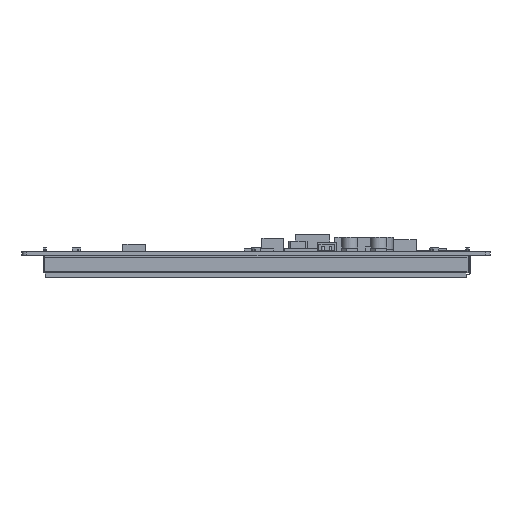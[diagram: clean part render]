
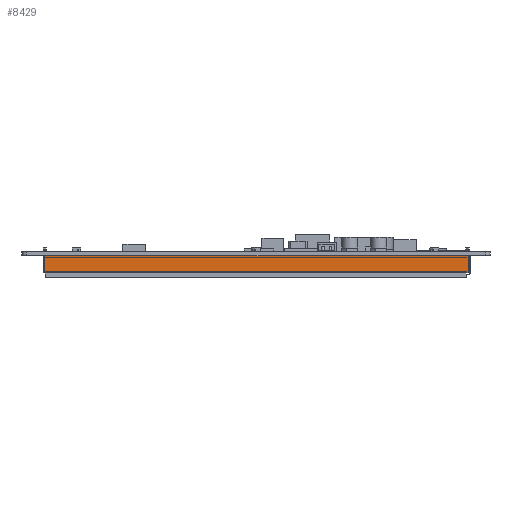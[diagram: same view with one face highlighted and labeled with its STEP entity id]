
A CAD part, left-side view. The second image highlights one B-rep face of the part: STEP entity #8429.
In plain terms, the highlighted planar face has unit normal (-1, 0, 0).
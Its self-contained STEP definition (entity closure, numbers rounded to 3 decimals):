
#8429=ADVANCED_FACE('',(#13104),#10816,.T.);
#10816=PLANE('',#46081);
#13104=FACE_OUTER_BOUND('',#15610,.T.);
#15610=EDGE_LOOP('',(#24092,#24093,#24094,#24095));
#24092=ORIENTED_EDGE('',*,*,#33572,.F.);
#24093=ORIENTED_EDGE('',*,*,#33573,.T.);
#24094=ORIENTED_EDGE('',*,*,#33574,.T.);
#24095=ORIENTED_EDGE('',*,*,#33575,.F.);
#28868=VERTEX_POINT('',#65795);
#28869=VERTEX_POINT('',#65796);
#28870=VERTEX_POINT('',#65798);
#28871=VERTEX_POINT('',#65800);
#33572=EDGE_CURVE('',#28868,#28869,#38554,.T.);
#33573=EDGE_CURVE('',#28868,#28870,#38555,.T.);
#33574=EDGE_CURVE('',#28870,#28871,#38556,.T.);
#33575=EDGE_CURVE('',#28869,#28871,#38557,.T.);
#38554=LINE('',#65794,#43282);
#38555=LINE('',#65797,#43283);
#38556=LINE('',#65799,#43284);
#38557=LINE('',#65801,#43285);
#43282=VECTOR('',#54699,1.);
#43283=VECTOR('',#54700,1.);
#43284=VECTOR('',#54701,1.);
#43285=VECTOR('',#54702,1.);
#46081=AXIS2_PLACEMENT_3D('',#65802,#54703,#54704);
#54699=DIRECTION('',(0.,0.,1.));
#54700=DIRECTION('',(0.,-1.,0.));
#54701=DIRECTION('',(0.,0.,1.));
#54702=DIRECTION('',(0.,-1.,0.));
#54703=DIRECTION('',(-1.,0.,0.));
#54704=DIRECTION('',(0.,-1.,0.));
#65794=CARTESIAN_POINT('',(-110.155,120.865,-8.8));
#65795=CARTESIAN_POINT('',(-110.155,120.865,-8.4));
#65796=CARTESIAN_POINT('',(-110.155,120.865,-1.6));
#65797=CARTESIAN_POINT('',(-110.155,-54.535,-8.4));
#65798=CARTESIAN_POINT('',(-110.155,-54.535,-8.4));
#65799=CARTESIAN_POINT('',(-110.155,-54.535,-8.8));
#65800=CARTESIAN_POINT('',(-110.155,-54.535,-1.6));
#65801=CARTESIAN_POINT('',(-110.155,120.865,-1.6));
#65802=CARTESIAN_POINT('',(-110.155,120.865,-8.8));
